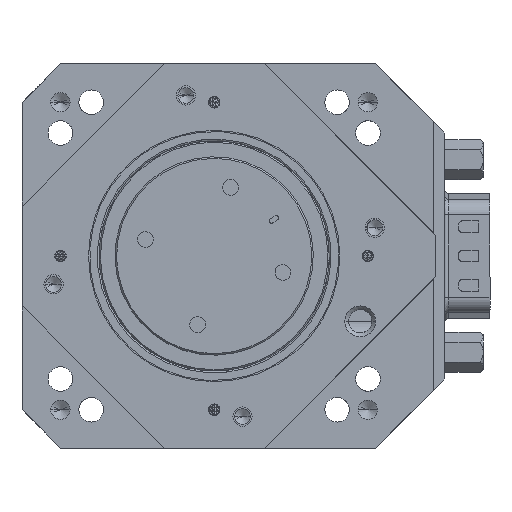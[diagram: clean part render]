
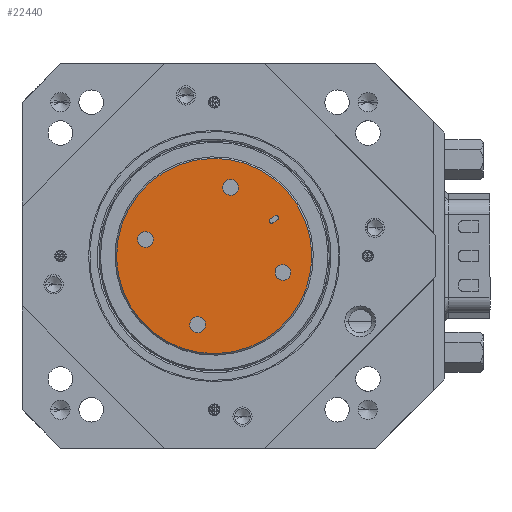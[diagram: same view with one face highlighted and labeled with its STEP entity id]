
A CAD part, front view. The second image highlights one B-rep face of the part: STEP entity #22440.
In plain terms, the highlighted planar face has unit normal (0, -1, 0) as drawn and (0, 1, 0) by its records, which use the part's own axes.
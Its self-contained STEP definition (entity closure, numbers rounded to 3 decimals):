
#911 = DIRECTION ( 'NONE',  ( 0., 1., 0. ) ) ;
#1088 = AXIS2_PLACEMENT_3D ( 'NONE', #24624, #11382, #8059 ) ;
#1259 = CARTESIAN_POINT ( 'NONE',  ( -6.5, 4.55, -6.5 ) ) ;
#1433 = CARTESIAN_POINT ( 'NONE',  ( 0., 4.55, 0. ) ) ;
#1578 = VECTOR ( 'NONE', #21197, 1000. ) ;
#1654 = CARTESIAN_POINT ( 'NONE',  ( -6.5, 4.55, 6.5 ) ) ;
#1947 = CARTESIAN_POINT ( 'NONE',  ( 6.5, 4.55, -5.475 ) ) ;
#2178 = AXIS2_PLACEMENT_3D ( 'NONE', #29985, #19975, #16685 ) ;
#2624 = EDGE_CURVE ( 'NONE', #27276, #15292, #21299, .T. ) ;
#3948 = DIRECTION ( 'NONE',  ( 0., 0., 1. ) ) ;
#4245 = CARTESIAN_POINT ( 'NONE',  ( 0., 4.55, 0. ) ) ;
#4536 = ORIENTED_EDGE ( 'NONE', *, *, #10707, .F. ) ;
#4943 = ORIENTED_EDGE ( 'NONE', *, *, #31634, .F. ) ;
#4959 = FACE_BOUND ( 'NONE', #17412, .T. ) ;
#4980 = AXIS2_PLACEMENT_3D ( 'NONE', #24037, #17403, #14106 ) ;
#5077 = CIRCLE ( 'NONE', #7212, 1.025 ) ;
#5152 = EDGE_LOOP ( 'NONE', ( #19910, #23774 ) ) ;
#5332 = VERTEX_POINT ( 'NONE', #32416 ) ;
#5620 = VERTEX_POINT ( 'NONE', #10878 ) ;
#5691 = CARTESIAN_POINT ( 'NONE',  ( 6.5, 4.55, 5.475 ) ) ;
#6467 = DIRECTION ( 'NONE',  ( 0., 0., 1. ) ) ;
#7188 = EDGE_CURVE ( 'NONE', #15292, #27276, #5077, .T. ) ;
#7212 = AXIS2_PLACEMENT_3D ( 'NONE', #16239, #12916, #9614 ) ;
#7225 = CARTESIAN_POINT ( 'NONE',  ( -8.725, 4.55, -0.3 ) ) ;
#7274 = DIRECTION ( 'NONE',  ( 0., 1., 0. ) ) ;
#7595 = CARTESIAN_POINT ( 'NONE',  ( -9.475, 4.55, -0.3 ) ) ;
#7926 = DIRECTION ( 'NONE',  ( 0., 0., 1. ) ) ;
#8059 = DIRECTION ( 'NONE',  ( 0., 0., 1. ) ) ;
#8568 = CIRCLE ( 'NONE', #2178, 0.3 ) ;
#8601 = DIRECTION ( 'NONE',  ( 1., 0., 0. ) ) ;
#8865 = VERTEX_POINT ( 'NONE', #16295 ) ;
#9200 = EDGE_CURVE ( 'NONE', #30161, #5620, #11099, .T. ) ;
#9614 = DIRECTION ( 'NONE',  ( 0., 0., 1. ) ) ;
#9782 = DIRECTION ( 'NONE',  ( 0., 1., 0. ) ) ;
#9914 = DIRECTION ( 'NONE',  ( 0., 0., 1. ) ) ;
#10606 = CARTESIAN_POINT ( 'NONE',  ( 6.5, 4.55, -6.5 ) ) ;
#10623 = EDGE_CURVE ( 'NONE', #5620, #30161, #28870, .T. ) ;
#10707 = EDGE_CURVE ( 'NONE', #16551, #21510, #27845, .T. ) ;
#10878 = CARTESIAN_POINT ( 'NONE',  ( -6.5, 4.55, -7.525 ) ) ;
#11083 = ORIENTED_EDGE ( 'NONE', *, *, #7188, .F. ) ;
#11099 = CIRCLE ( 'NONE', #1088, 1.025 ) ;
#11138 = CIRCLE ( 'NONE', #4980, 1.025 ) ;
#11252 = DIRECTION ( 'NONE',  ( 0., 1., 0. ) ) ;
#11327 = DIRECTION ( 'NONE',  ( 0., 0., 1. ) ) ;
#11382 = DIRECTION ( 'NONE',  ( 0., 1., 0. ) ) ;
#11432 = EDGE_LOOP ( 'NONE', ( #21689, #19939 ) ) ;
#11449 = ORIENTED_EDGE ( 'NONE', *, *, #27934, .F. ) ;
#11906 = CARTESIAN_POINT ( 'NONE',  ( -9.475, 4.55, 0.3 ) ) ;
#12916 = DIRECTION ( 'NONE',  ( 0., 1., 0. ) ) ;
#13090 = CARTESIAN_POINT ( 'NONE',  ( 0., 4.55, 0. ) ) ;
#13221 = DIRECTION ( 'NONE',  ( 0., 1., 0. ) ) ;
#13328 = EDGE_CURVE ( 'NONE', #21510, #21116, #14520, .T. ) ;
#13577 = CARTESIAN_POINT ( 'NONE',  ( 0., 4.55, -12.7 ) ) ;
#13777 = VERTEX_POINT ( 'NONE', #13577 ) ;
#14060 = ORIENTED_EDGE ( 'NONE', *, *, #20552, .F. ) ;
#14106 = DIRECTION ( 'NONE',  ( 0., 0., 1. ) ) ;
#14520 = CIRCLE ( 'NONE', #20980, 0.3 ) ;
#14563 = CARTESIAN_POINT ( 'NONE',  ( 6.5, 4.55, 6.5 ) ) ;
#14637 = DIRECTION ( 'NONE',  ( 0., 1., 0. ) ) ;
#14780 = AXIS2_PLACEMENT_3D ( 'NONE', #1259, #20403, #17107 ) ;
#15292 = VERTEX_POINT ( 'NONE', #30615 ) ;
#15300 = CARTESIAN_POINT ( 'NONE',  ( -6.5, 4.55, 7.525 ) ) ;
#15448 = EDGE_LOOP ( 'NONE', ( #28169, #11083 ) ) ;
#16131 = AXIS2_PLACEMENT_3D ( 'NONE', #1654, #24120, #20794 ) ;
#16239 = CARTESIAN_POINT ( 'NONE',  ( -6.5, 4.55, 6.5 ) ) ;
#16295 = CARTESIAN_POINT ( 'NONE',  ( 6.5, 4.55, -7.525 ) ) ;
#16423 = PLANE ( 'NONE',  #23359 ) ;
#16551 = VERTEX_POINT ( 'NONE', #7225 ) ;
#16685 = DIRECTION ( 'NONE',  ( 0., 0., 1. ) ) ;
#16848 = EDGE_CURVE ( 'NONE', #21116, #5332, #25168, .T. ) ;
#17107 = DIRECTION ( 'NONE',  ( 0., 0., 1. ) ) ;
#17108 = VECTOR ( 'NONE', #8601, 1000. ) ;
#17403 = DIRECTION ( 'NONE',  ( 0., 1., 0. ) ) ;
#17412 = EDGE_LOOP ( 'NONE', ( #21360, #4536, #14060, #26308 ) ) ;
#18837 = ORIENTED_EDGE ( 'NONE', *, *, #23264, .F. ) ;
#18870 = EDGE_CURVE ( 'NONE', #24615, #8865, #30820, .T. ) ;
#18886 = EDGE_LOOP ( 'NONE', ( #18837, #11449 ) ) ;
#18989 = ORIENTED_EDGE ( 'NONE', *, *, #18870, .F. ) ;
#19910 = ORIENTED_EDGE ( 'NONE', *, *, #22798, .T. ) ;
#19918 = CARTESIAN_POINT ( 'NONE',  ( -9.475, 4.55, 0.3 ) ) ;
#19939 = ORIENTED_EDGE ( 'NONE', *, *, #10623, .F. ) ;
#19975 = DIRECTION ( 'NONE',  ( 0., 1., 0. ) ) ;
#20403 = DIRECTION ( 'NONE',  ( 0., 1., 0. ) ) ;
#20476 = EDGE_CURVE ( 'NONE', #22077, #13777, #20964, .T. ) ;
#20552 = EDGE_CURVE ( 'NONE', #5332, #16551, #8568, .T. ) ;
#20793 = CARTESIAN_POINT ( 'NONE',  ( 0., 4.55, 12.7 ) ) ;
#20794 = DIRECTION ( 'NONE',  ( 0., 0., 1. ) ) ;
#20964 = CIRCLE ( 'NONE', #21206, 12.7 ) ;
#20980 = AXIS2_PLACEMENT_3D ( 'NONE', #23161, #13221, #9914 ) ;
#21116 = VERTEX_POINT ( 'NONE', #19918 ) ;
#21197 = DIRECTION ( 'NONE',  ( -1., 0., 0. ) ) ;
#21206 = AXIS2_PLACEMENT_3D ( 'NONE', #1433, #30590, #27235 ) ;
#21250 = CARTESIAN_POINT ( 'NONE',  ( 6.5, 4.55, 6.5 ) ) ;
#21299 = CIRCLE ( 'NONE', #16131, 1.025 ) ;
#21360 = ORIENTED_EDGE ( 'NONE', *, *, #13328, .F. ) ;
#21510 = VERTEX_POINT ( 'NONE', #7595 ) ;
#21679 = FACE_OUTER_BOUND ( 'NONE', #5152, .T. ) ;
#21689 = ORIENTED_EDGE ( 'NONE', *, *, #9200, .F. ) ;
#22010 = EDGE_LOOP ( 'NONE', ( #18989, #4943 ) ) ;
#22077 = VERTEX_POINT ( 'NONE', #20793 ) ;
#22440 = ADVANCED_FACE ( 'NONE', ( #4959, #21679, #22513, #24199, #25887, #27549 ), #16423, .T. ) ;
#22513 = FACE_BOUND ( 'NONE', #15448, .T. ) ;
#22798 = EDGE_CURVE ( 'NONE', #13777, #22077, #23999, .T. ) ;
#23161 = CARTESIAN_POINT ( 'NONE',  ( -9.475, 4.55, 0. ) ) ;
#23264 = EDGE_CURVE ( 'NONE', #32203, #27671, #24152, .T. ) ;
#23359 = AXIS2_PLACEMENT_3D ( 'NONE', #13090, #9782, #6467 ) ;
#23774 = ORIENTED_EDGE ( 'NONE', *, *, #20476, .T. ) ;
#23999 = CIRCLE ( 'NONE', #31389, 12.7 ) ;
#24037 = CARTESIAN_POINT ( 'NONE',  ( 6.5, 4.55, -6.5 ) ) ;
#24120 = DIRECTION ( 'NONE',  ( 0., 1., 0. ) ) ;
#24152 = CIRCLE ( 'NONE', #29742, 1.025 ) ;
#24199 = FACE_BOUND ( 'NONE', #18886, .T. ) ;
#24517 = CARTESIAN_POINT ( 'NONE',  ( -9.475, 4.55, -0.3 ) ) ;
#24615 = VERTEX_POINT ( 'NONE', #1947 ) ;
#24624 = CARTESIAN_POINT ( 'NONE',  ( -6.5, 4.55, -6.5 ) ) ;
#25168 = LINE ( 'NONE', #11906, #17108 ) ;
#25294 = CIRCLE ( 'NONE', #31424, 1.025 ) ;
#25887 = FACE_BOUND ( 'NONE', #22010, .T. ) ;
#26308 = ORIENTED_EDGE ( 'NONE', *, *, #16848, .F. ) ;
#26355 = CARTESIAN_POINT ( 'NONE',  ( 6.5, 4.55, 7.525 ) ) ;
#26998 = AXIS2_PLACEMENT_3D ( 'NONE', #10606, #7274, #3948 ) ;
#27235 = DIRECTION ( 'NONE',  ( 0., 0., 1. ) ) ;
#27276 = VERTEX_POINT ( 'NONE', #15300 ) ;
#27549 = FACE_BOUND ( 'NONE', #11432, .T. ) ;
#27671 = VERTEX_POINT ( 'NONE', #5691 ) ;
#27845 = LINE ( 'NONE', #24517, #1578 ) ;
#27934 = EDGE_CURVE ( 'NONE', #27671, #32203, #25294, .T. ) ;
#28169 = ORIENTED_EDGE ( 'NONE', *, *, #2624, .F. ) ;
#28870 = CIRCLE ( 'NONE', #14780, 1.025 ) ;
#29742 = AXIS2_PLACEMENT_3D ( 'NONE', #14563, #11252, #7926 ) ;
#29985 = CARTESIAN_POINT ( 'NONE',  ( -8.725, 4.55, 0. ) ) ;
#30051 = DIRECTION ( 'NONE',  ( 0., 0., 1. ) ) ;
#30161 = VERTEX_POINT ( 'NONE', #30622 ) ;
#30590 = DIRECTION ( 'NONE',  ( 0., 1., 0. ) ) ;
#30615 = CARTESIAN_POINT ( 'NONE',  ( -6.5, 4.55, 5.475 ) ) ;
#30622 = CARTESIAN_POINT ( 'NONE',  ( -6.5, 4.55, -5.475 ) ) ;
#30820 = CIRCLE ( 'NONE', #26998, 1.025 ) ;
#31389 = AXIS2_PLACEMENT_3D ( 'NONE', #4245, #911, #30051 ) ;
#31424 = AXIS2_PLACEMENT_3D ( 'NONE', #21250, #14637, #11327 ) ;
#31634 = EDGE_CURVE ( 'NONE', #8865, #24615, #11138, .T. ) ;
#32203 = VERTEX_POINT ( 'NONE', #26355 ) ;
#32416 = CARTESIAN_POINT ( 'NONE',  ( -8.725, 4.55, 0.3 ) ) ;
